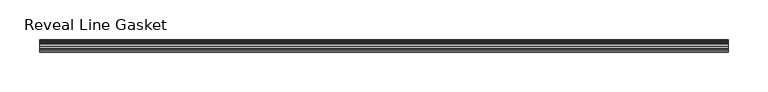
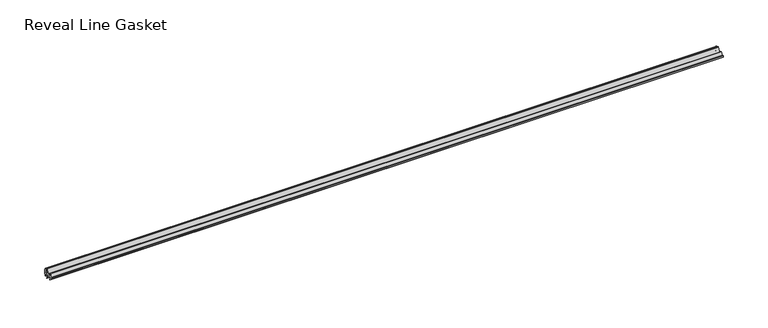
"""IFC4 building model written with IfcOpenShell, lengths in millimetres: proxy geometry, Accessories-Teknion-FHGR-AI_Healthcare-Reveal_Line_Gasket(Horizontal)-R2022 : Reveal Line Gasket."""

import ifcopenshell
import ifcopenshell.guid

model = None  # the IFC model being written
_history = None  # IfcOwnerHistory: only IFC2X3 demands one
_inside = {}  # id of a spatial element -> (the spatial element, [elements in it])
_under = {}  # id of a project, library or spatial element -> (it, [spatial elements below it])
_declared = {}  # id of a project -> (the project, [libraries it declares])
_typed = {}  # id of a type object -> (the type object, [elements of that type])
_made_of = {}  # id of a material, layer set ... -> (it, [elements and type objects made of it])


def new_model(schema):
    """Start an empty IFC model of exactly this schema.

    Asked for "IFC4X3", IfcOpenShell would pick the latest addendum, in which some entities
    have other attributes; the version numbers below select the first issue.
    IFC2X3 requires an IfcOwnerHistory on every rooted entity: one is made here for all.
    """
    global model, _history
    if schema == "IFC4X3":
        model = ifcopenshell.file(schema_version=(4, 3, 0, 0))
    else:
        model = ifcopenshell.file(schema=schema)
    _inside.clear()
    _under.clear()
    _declared.clear()
    _typed.clear()
    _made_of.clear()
    _history = None
    if model.schema == "IFC2X3":
        org = make("IfcOrganization", Name="unknown")
        user = make(
            "IfcPersonAndOrganization",
            ThePerson=make("IfcPerson", FamilyName="unknown"),
            TheOrganization=org,
        )
        app = make(
            "IfcApplication",
            ApplicationDeveloper=org,
            Version="unknown",
            ApplicationFullName="unknown",
            ApplicationIdentifier="unknown",
        )
        _history = make(
            "IfcOwnerHistory",
            OwningUser=user,
            OwningApplication=app,
            ChangeAction="ADDED",
            CreationDate=0,
        )
    return model


def make(cls, **values):
    """One entity of the class cls with the attributes given. An attribute that is None is left unset."""
    return model.create_entity(
        cls, **{name: value for name, value in values.items() if value is not None}
    )


def rooted(cls, **values):
    """An entity with a GlobalId (a new one), such as an element, a storey or a relation."""
    return make(cls, GlobalId=ifcopenshell.guid.new(), OwnerHistory=_history, **values)


def si_unit(unit_type, name, prefix=None):
    """IfcSIUnit, for example si_unit("LENGTHUNIT", "METRE", prefix="MILLI")."""
    return make("IfcSIUnit", UnitType=unit_type, Prefix=prefix, Name=name)


def assignment(units):
    """IfcUnitAssignment: the units of a project."""
    return None if units is None else make("IfcUnitAssignment", Units=units)


def point(xyz):
    """IfcCartesianPoint."""
    return None if xyz is None else make("IfcCartesianPoint", Coordinates=xyz)


def direction(xyz):
    """IfcDirection."""
    return None if xyz is None else make("IfcDirection", DirectionRatios=xyz)


def frame(location, z_axis=None, x_axis=None):
    """IfcAxis2Placement3D, a coordinate frame: its origin and axes. An axis left out is left unset."""
    return make(
        "IfcAxis2Placement3D",
        Location=point(location),
        Axis=direction(z_axis),
        RefDirection=direction(x_axis),
    )


def frame_2d(location, x_axis=None):
    """IfcAxis2Placement2D, a coordinate frame in the plane: its origin and x axis."""
    return make(
        "IfcAxis2Placement2D", Location=point(location), RefDirection=direction(x_axis)
    )


def origin():
    """The frame at (0, 0, 0) with its axes left unset."""
    return frame((0.0, 0.0, 0.0))


def place(relative_to, where):
    """IfcLocalPlacement: puts the frame where relative to a parent placement (None: the world)."""
    return make(
        "IfcLocalPlacement", PlacementRelTo=relative_to, RelativePlacement=where
    )


def context(
    kind, dimensions, precision=None, world=None, true_north=None, identifier=None
):
    """IfcGeometricRepresentationContext, for example the 3D "Model" context."""
    return make(
        "IfcGeometricRepresentationContext",
        ContextIdentifier=identifier,
        ContextType=kind,
        CoordinateSpaceDimension=dimensions,
        Precision=precision,
        WorldCoordinateSystem=world,
        TrueNorth=true_north,
    )


def project(units=None, contexts=None):
    """IfcProject with its units and contexts."""
    return rooted(
        "IfcProject",
        Name="project",
        RepresentationContexts=contexts,
        UnitsInContext=assignment(units),
    )


def spatial(cls, under=None, at=None, **own):
    """A site, building, storey or space (cls), placed at a placement, below another one or the project."""
    s = rooted(cls, ObjectPlacement=at, **own)
    if under is not None:
        _under.setdefault(under.id(), (under, []))[1].append(s)
    return s


def polyline(points):
    """IfcPolyline through the points."""
    return make("IfcPolyline", Points=[point(p) for p in points])


def circle_curve(where, radius):
    """IfcCircle in the frame where."""
    return make("IfcCircle", Position=where, Radius=radius)


def trimmed(basis, trim1, trim2, sense, master):
    """IfcTrimmedCurve: the piece of a basis curve between two trims."""
    return make(
        "IfcTrimmedCurve",
        BasisCurve=basis,
        Trim1=trim1,
        Trim2=trim2,
        SenseAgreement=sense,
        MasterRepresentation=master,
    )


def segment(curve, same_sense, transition):
    """IfcCompositeCurveSegment."""
    return make(
        "IfcCompositeCurveSegment",
        Transition=transition,
        SameSense=same_sense,
        ParentCurve=curve,
    )


def composite_curve(segments, self_intersect=None):
    """IfcCompositeCurve: segments joined end to end."""
    return make("IfcCompositeCurve", Segments=segments, SelfIntersect=self_intersect)


def outline(outer, holes=None, kind="AREA"):
    """IfcArbitraryClosedProfileDef: a profile drawn as a closed curve; with holes, ...WithVoids."""
    if holes is None:
        return make("IfcArbitraryClosedProfileDef", ProfileType=kind, OuterCurve=outer)
    return make(
        "IfcArbitraryProfileDefWithVoids",
        ProfileType=kind,
        OuterCurve=outer,
        InnerCurves=holes,
    )


def extrude(swept, where, along, depth):
    """IfcExtrudedAreaSolid: the profile swept, set in the frame where, extruded along a direction by depth."""
    return make(
        "IfcExtrudedAreaSolid",
        SweptArea=swept,
        Position=where,
        ExtrudedDirection=direction(along),
        Depth=depth,
    )


def shape(context_of_items, identifier, shape_type, items):
    """IfcShapeRepresentation: the items that make up one representation, for example the "Body"."""
    return make(
        "IfcShapeRepresentation",
        ContextOfItems=context_of_items,
        RepresentationIdentifier=identifier,
        RepresentationType=shape_type,
        Items=items,
    )


def source(mapping_origin, context_of_items, identifier, shape_type, items):
    """IfcRepresentationMap: a shape defined once, which mapped items show again and again."""
    return make(
        "IfcRepresentationMap",
        MappingOrigin=mapping_origin,
        MappedRepresentation=shape(context_of_items, identifier, shape_type, items),
    )


def transform(
    local_origin,
    x_axis=None,
    y_axis=None,
    z_axis=None,
    scale=None,
    scale2=None,
    scale3=None,
    uniform=True,
):
    """IfcCartesianTransformationOperator3D, or its non-uniform kind. x_axis, y_axis, z_axis: its Axis1, 2, 3."""
    if uniform:
        return make(
            "IfcCartesianTransformationOperator3D",
            Axis1=direction(x_axis),
            Axis2=direction(y_axis),
            LocalOrigin=point(local_origin),
            Scale=scale,
            Axis3=direction(z_axis),
        )
    return make(
        "IfcCartesianTransformationOperator3DnonUniform",
        Axis1=direction(x_axis),
        Axis2=direction(y_axis),
        LocalOrigin=point(local_origin),
        Scale=scale,
        Axis3=direction(z_axis),
        Scale2=scale2,
        Scale3=scale3,
    )


def mapped(mapping_source, mapping_target):
    """IfcMappedItem: shows the shape of a source again, moved by a transform."""
    return make(
        "IfcMappedItem", MappingSource=mapping_source, MappingTarget=mapping_target
    )


def made_of(thing, what):
    """Note that an element or type object is made of a material, layer set ...; save() writes the relation."""
    if what is not None:
        _made_of.setdefault(what.id(), (what, []))[1].append(thing)
    return thing


def element(
    cls,
    number,
    at=None,
    inside=None,
    cuts=None,
    type_object=None,
    material=None,
    context=None,
    identifier="Body",
    shape_type=None,
    held_by="IfcProductDefinitionShape",
    body=None,
    shapes=None,
    **own,
):
    """One element of the class cls, such as IfcWall. Its Tag is "e" and its number.

    at: its placement. inside: the storey or other place that contains it. cuts: it is an
    opening in that element (IfcRelVoidsElement). A single representation is given by context,
    identifier, shape_type and body (its items); several are given by shapes. held_by: the class
    of the entity that holds the representations. save() writes the other relations.
    """
    e = rooted(cls, Tag="e%d" % number, ObjectPlacement=at, **own)
    if body is not None:
        shapes = [shape(context, identifier, shape_type, body)]
    if shapes is not None:
        e.Representation = make(held_by, Representations=shapes)
    if inside is not None:
        _inside.setdefault(inside.id(), (inside, []))[1].append(e)
    if cuts is not None:
        rooted(
            "IfcRelVoidsElement", RelatingBuildingElement=cuts, RelatedOpeningElement=e
        )
    if type_object is not None:
        _typed.setdefault(type_object.id(), (type_object, []))[1].append(e)
    return made_of(e, material)


def aggregate(whole, parts):
    """IfcRelAggregates: a whole, such as a stair, and the parts it consists of."""
    return rooted("IfcRelAggregates", RelatingObject=whole, RelatedObjects=parts)


def save(model, path):
    """Write the relations noted so far, then the file.

    IfcRelAggregates (storeys below a building ...), IfcRelContainedInSpatialStructure (elements
    in a storey), IfcRelDefinesByType, IfcRelAssociatesMaterial and IfcRelDeclares: one each for
    every whole, place, type object, material and project.
    """
    for whole, parts in _under.values():
        aggregate(whole, parts)
    for where, things in _inside.values():
        rooted(
            "IfcRelContainedInSpatialStructure",
            RelatedElements=things,
            RelatingStructure=where,
        )
    for kind, things in _typed.values():
        rooted("IfcRelDefinesByType", RelatedObjects=things, RelatingType=kind)
    for what, things in _made_of.values():
        rooted("IfcRelAssociatesMaterial", RelatedObjects=things, RelatingMaterial=what)
    for by, libraries in _declared.values():
        rooted("IfcRelDeclares", RelatingContext=by, RelatedDefinitions=libraries)
    model.write(path)


def reveal_line_gasket_24257de9(model_context):
    return source(origin(), model_context, "Body", "SweptSolid", [
        extrude(outline(composite_curve([segment(polyline([(7.6326998, 1603.2), (7.6326998, 1597.2), (7.4091917, 1596.2445073), (6.8813059, 1595.3115316)]), True, "CONTINUOUS"), segment(trimmed(circle_curve(frame_2d((6.5243141, 1595.5135207)), 0.4101739), [point((6.8813059, 1595.3115316))], [point((6.1246704, 1595.6058653))], False, "CARTESIAN"), True, "CONTINUOUS"), segment(polyline([(6.1246704, 1595.6058653), (6.3626997, 1597.3020914), (6.3626997, 1599.3345473)]), True, "CONTINUOUS"), segment(trimmed(circle_curve(frame_2d((5.6959605, 1598.9180742)), 0.786124), [point((6.3626997, 1599.3345473))], [point((5.0926996, 1599.422125))], True, "CARTESIAN"), True, "CONTINUOUS"), segment(polyline([(5.0926996, 1599.422125), (0.7492996, 1599.422125), (3.7293824, 1594.2604705)]), True, "CONTINUOUS"), segment(trimmed(circle_curve(frame_2d((3.3132479, 1594.1950239)), 0.4212495), [point((3.7293824, 1594.2604705))], [point((3.0485022, 1593.8673642))], False, "CARTESIAN"), True, "CONTINUOUS"), segment(polyline([(3.0485022, 1593.8673642), (-0.5742594, 1599.422125), (-4.8262978, 1599.422125), (-3.1660374, 1596.5464703)]), True, "CONTINUOUS"), segment(trimmed(circle_curve(frame_2d((-3.5978728, 1596.4881145)), 0.4357605), [point((-3.1660374, 1596.5464703))], [point((-3.864328, 1596.1433119))], False, "CARTESIAN"), True, "CONTINUOUS"), segment(polyline([(-3.864328, 1596.1433119), (-6.1944059, 1599.422125), (-7.6326998, 1599.422125), (-7.6326998, 1600.977875), (-6.1944059, 1600.977875), (-3.864328, 1604.2566881)]), True, "CONTINUOUS"), segment(trimmed(circle_curve(frame_2d((-3.5978728, 1603.9118855)), 0.4357605), [point((-3.864328, 1604.2566881))], [point((-3.1660374, 1603.8535297))], False, "CARTESIAN"), True, "CONTINUOUS"), segment(polyline([(-3.1660374, 1603.8535297), (-4.8262978, 1600.977875), (-0.5742594, 1600.977875), (3.0485022, 1606.5326358)]), True, "CONTINUOUS"), segment(trimmed(circle_curve(frame_2d((3.3132479, 1606.2049761)), 0.4212495), [point((3.0485022, 1606.5326358))], [point((3.7293824, 1606.1395295))], False, "CARTESIAN"), True, "CONTINUOUS"), segment(polyline([(3.7293824, 1606.1395295), (0.7492996, 1600.977875), (5.0926996, 1600.977875)]), True, "CONTINUOUS"), segment(trimmed(circle_curve(frame_2d((5.6959605, 1601.4819258)), 0.786124), [point((5.0926996, 1600.977875))], [point((6.3626997, 1601.0654527))], True, "CARTESIAN"), True, "CONTINUOUS"), segment(polyline([(6.3626997, 1601.0654527), (6.3626997, 1603.0979086), (6.1246704, 1604.7941347)]), True, "CONTINUOUS"), segment(trimmed(circle_curve(frame_2d((6.5243141, 1604.8864793)), 0.4101739), [point((6.1246704, 1604.7941347))], [point((6.8813059, 1605.0884684))], False, "CARTESIAN"), True, "CONTINUOUS"), segment(polyline([(6.8813059, 1605.0884684), (7.4091917, 1604.1554927), (7.6326998, 1603.2)]), True, "CONTINUOUS")], self_intersect=False)), frame((-431.199949, 0.0, 0.0), z_axis=(1.0, 0.0, 0.0), x_axis=(0.0, 1.0, 0.0)), (0.0, 0.0, 1.0), 862.3998981),
    ])


if __name__ == "__main__":
    model = new_model("IFC4")
    model_context = context("Model", 3, world=origin())
    ifc_project = project(units=[si_unit("LENGTHUNIT", "METRE", prefix="MILLI")], contexts=[model_context])
    site = spatial("IfcSite", under=ifc_project)
    building = spatial("IfcBuilding", under=site)
    placement = place(None, origin())
    reveal_line_gasket_shape = reveal_line_gasket_24257de9(model_context)
    element("IfcBuildingElementProxy", 1, Name="Accessories-Teknion-FHGR-AI_Healthcare-Reveal_Line_Gasket(Horizontal)-R2022 : Reveal Line Gasket", ObjectType="Accessories-Teknion-FHGR-AI_Healthcare-Reveal_Line_Gasket(Horizontal)-R2022 : Reveal Line Gasket", at=placement, inside=building, context=model_context, shape_type="MappedRepresentation", body=[
        mapped(reveal_line_gasket_shape, transform((0.0, 0.0, 0.0), x_axis=(1.0, 0.0, 0.0), y_axis=(0.0, 1.0, 0.0), z_axis=(0.0, 0.0, 1.0))),
    ])
    save(model, "model.ifc")
